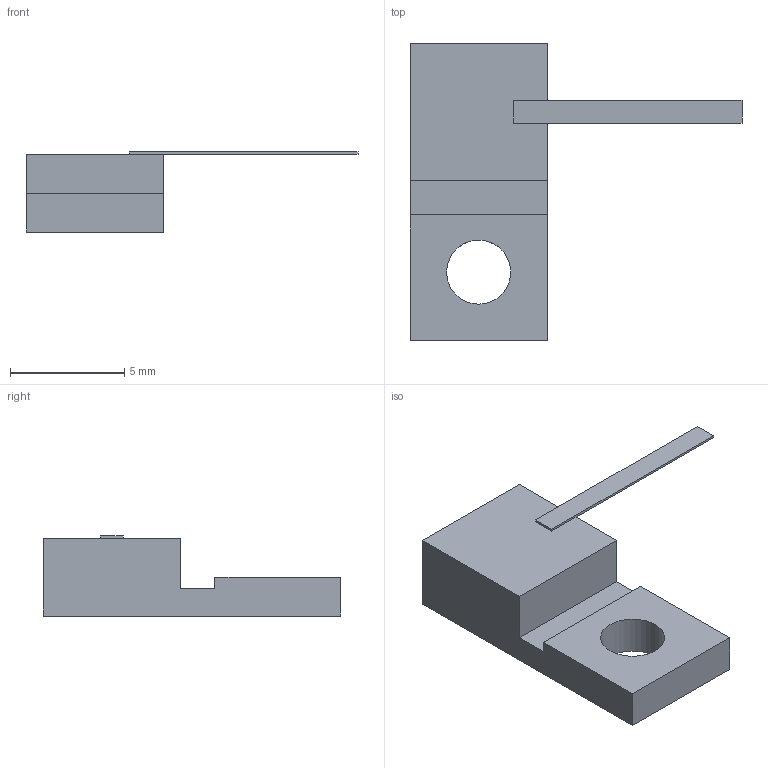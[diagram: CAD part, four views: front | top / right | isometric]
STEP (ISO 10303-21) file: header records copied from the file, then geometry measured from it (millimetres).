
FILE_DESCRIPTION(('STEP AP203'), '1');
FILE_NAME('Ð1-87-30-1', '', ('UNSPECIFIED'), ('UNSPECIFIED'), 'ASCON STEP Converter 1.6', 'ASCON Math Kernel', '');
FILE_SCHEMA(('CONFIG_CONTROL_DESIGN'));
Length unit declared in the file: millimetre
Bounding box: 14.5 x 13 x 3.5 mm (x, y, z)
Volume: 179.8 mm3; surface area: 287.7 mm2
Topology: 1 solids, 1 shells, 17 faces, 43 edges, 28 vertices
Faces by surface type: plane 16, cylinder 1
Full cylindrical faces by diameter (mm): 2.8 x1
Entity records: 682 total; most frequent: CARTESIAN_POINT 88, ORIENTED_EDGE 84, DIRECTION 80, EDGE_CURVE 42, LINE 40, VECTOR 40, VERTEX_POINT 28, AXIS2_PLACEMENT_3D 20
